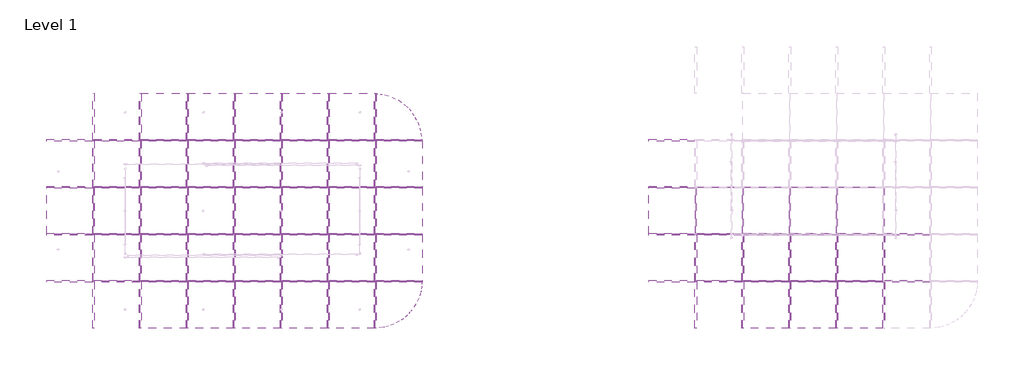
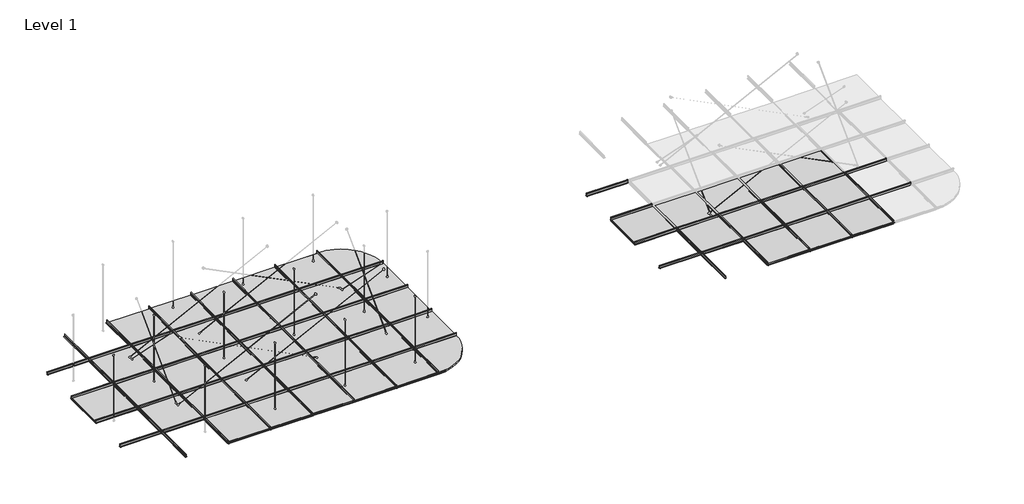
# One storey, part 1 of 3: 91 members, 46 plates.
"""IFC4 building model written with IfcOpenShell, lengths in millimetres."""

from ifc_helpers import new_model, si_unit, origin, place, context, project, spatial, transform, mapped, element, save
from components import circular_mullion_88ff0090, circular_mullion_f9b5ef4a, circular_mullion_51bf8350, circular_mullion_cross_tees_bf580255, plate_e06be09b, plate_2f8602be, plate_8db3f6ee

model = new_model("IFC4")

# Units and contexts
model_context = context("Model", 3, world=origin())
ifc_project = project(units=[si_unit("LENGTHUNIT", "METRE", prefix="MILLI")], contexts=[model_context])

# Site, building, storey
site = spatial("IfcSite", under=ifc_project)
building = spatial("IfcBuilding", under=site)
storey = spatial("IfcBuildingStorey", under=building, Name="Level 1", Elevation=0.0)

# Members
placement = place(None, origin())
circular_mullion_shape = circular_mullion_88ff0090(model_context)
element("IfcMember", 1, ObjectType="Circular Mullion : Main Runners", at=placement, inside=storey, context=model_context, shape_type="MappedRepresentation", body=[
    mapped(circular_mullion_shape, transform((-10207.3919311, 7076.1970288, 2001.0), x_axis=(0.0, 1.0, 0.0), y_axis=(0.0, 0.0, -1.0), z_axis=(-1.0, 0.0, 0.0))),
])
element("IfcMember", 2, ObjectType="Circular Mullion : Main Runners", at=placement, inside=storey, context=model_context, shape_type="MappedRepresentation", body=[
    mapped(circular_mullion_shape, transform((-9607.3919311, 7076.1970288, 2001.0), x_axis=(0.0, 1.0, 0.0), y_axis=(0.0, 0.0, -1.0), z_axis=(-1.0, 0.0, 0.0))),
])
element("IfcMember", 3, ObjectType="Circular Mullion : Main Runners", at=placement, inside=storey, context=model_context, shape_type="MappedRepresentation", body=[
    mapped(circular_mullion_shape, transform((-9007.3919311, 7076.1970288, 2001.0), x_axis=(0.0, 1.0, 0.0), y_axis=(0.0, 0.0, -1.0), z_axis=(-1.0, 0.0, 0.0))),
])
element("IfcMember", 4, ObjectType="Circular Mullion : Main Runners", at=placement, inside=storey, context=model_context, shape_type="MappedRepresentation", body=[
    mapped(circular_mullion_shape, transform((-8407.3919311, 7076.1970288, 2001.0), x_axis=(0.0, 1.0, 0.0), y_axis=(0.0, 0.0, -1.0), z_axis=(-1.0, 0.0, 0.0))),
])
element("IfcMember", 5, ObjectType="Circular Mullion : Main Runners", at=placement, inside=storey, context=model_context, shape_type="MappedRepresentation", body=[
    mapped(circular_mullion_shape, transform((-7807.3919311, 7076.1970288, 2001.0), x_axis=(0.0, 1.0, 0.0), y_axis=(0.0, 0.0, -1.0), z_axis=(-1.0, 0.0, 0.0))),
])
element("IfcMember", 6, ObjectType="Circular Mullion : Main Runners", at=placement, inside=storey, context=model_context, shape_type="MappedRepresentation", body=[
    mapped(circular_mullion_shape, transform((-7207.3919311, 7076.1970288, 2001.0), x_axis=(0.0, 1.0, 0.0), y_axis=(0.0, 0.0, -1.0), z_axis=(-1.0, 0.0, 0.0))),
])
element("IfcMember", 7, ObjectType="Circular Mullion : Main Runners", at=placement, inside=storey, context=model_context, shape_type="MappedRepresentation", body=[
    mapped(circular_mullion_shape, transform((-10207.3919311, 7676.1970288, 2001.0), x_axis=(0.0, 1.0, 0.0), y_axis=(0.0, 0.0, -1.0), z_axis=(-1.0, 0.0, 0.0))),
])
element("IfcMember", 8, ObjectType="Circular Mullion : Main Runners", at=placement, inside=storey, context=model_context, shape_type="MappedRepresentation", body=[
    mapped(circular_mullion_shape, transform((-9607.3919311, 7676.1970288, 2001.0), x_axis=(0.0, 1.0, 0.0), y_axis=(0.0, 0.0, -1.0), z_axis=(-1.0, 0.0, 0.0))),
])
element("IfcMember", 9, ObjectType="Circular Mullion : Main Runners", at=placement, inside=storey, context=model_context, shape_type="MappedRepresentation", body=[
    mapped(circular_mullion_shape, transform((-9007.3919311, 7676.1970288, 2001.0), x_axis=(0.0, 1.0, 0.0), y_axis=(0.0, 0.0, -1.0), z_axis=(-1.0, 0.0, 0.0))),
])
element("IfcMember", 10, ObjectType="Circular Mullion : Main Runners", at=placement, inside=storey, context=model_context, shape_type="MappedRepresentation", body=[
    mapped(circular_mullion_shape, transform((-8407.3919311, 7676.1970288, 2001.0), x_axis=(0.0, 1.0, 0.0), y_axis=(0.0, 0.0, -1.0), z_axis=(-1.0, 0.0, 0.0))),
])
element("IfcMember", 11, ObjectType="Circular Mullion : Main Runners", at=placement, inside=storey, context=model_context, shape_type="MappedRepresentation", body=[
    mapped(circular_mullion_shape, transform((-7807.3919311, 7676.1970288, 2001.0), x_axis=(0.0, 1.0, 0.0), y_axis=(0.0, 0.0, -1.0), z_axis=(-1.0, 0.0, 0.0))),
])
element("IfcMember", 12, ObjectType="Circular Mullion : Main Runners", at=placement, inside=storey, context=model_context, shape_type="MappedRepresentation", body=[
    mapped(circular_mullion_shape, transform((-7207.3919311, 7676.1970288, 2001.0), x_axis=(0.0, 1.0, 0.0), y_axis=(0.0, 0.0, -1.0), z_axis=(-1.0, 0.0, 0.0))),
])
element("IfcMember", 13, ObjectType="Circular Mullion : Main Runners", at=placement, inside=storey, context=model_context, shape_type="MappedRepresentation", body=[
    mapped(circular_mullion_shape, transform((-10207.3919311, 8276.1970288, 2001.0), x_axis=(0.0, 1.0, 0.0), y_axis=(0.0, 0.0, -1.0), z_axis=(-1.0, 0.0, 0.0))),
])
element("IfcMember", 14, ObjectType="Circular Mullion : Main Runners", at=placement, inside=storey, context=model_context, shape_type="MappedRepresentation", body=[
    mapped(circular_mullion_shape, transform((-9607.3919311, 8276.1970288, 2001.0), x_axis=(0.0, 1.0, 0.0), y_axis=(0.0, 0.0, -1.0), z_axis=(-1.0, 0.0, 0.0))),
])
element("IfcMember", 15, ObjectType="Circular Mullion : Main Runners", at=placement, inside=storey, context=model_context, shape_type="MappedRepresentation", body=[
    mapped(circular_mullion_shape, transform((-9007.3919311, 8276.1970288, 2001.0), x_axis=(0.0, 1.0, 0.0), y_axis=(0.0, 0.0, -1.0), z_axis=(-1.0, 0.0, 0.0))),
])
element("IfcMember", 16, ObjectType="Circular Mullion : Main Runners", at=placement, inside=storey, context=model_context, shape_type="MappedRepresentation", body=[
    mapped(circular_mullion_shape, transform((-8407.3919311, 8276.1970288, 2001.0), x_axis=(0.0, 1.0, 0.0), y_axis=(0.0, 0.0, -1.0), z_axis=(-1.0, 0.0, 0.0))),
])
element("IfcMember", 17, ObjectType="Circular Mullion : Main Runners", at=placement, inside=storey, context=model_context, shape_type="MappedRepresentation", body=[
    mapped(circular_mullion_shape, transform((-7807.3919311, 8276.1970288, 2001.0), x_axis=(0.0, 1.0, 0.0), y_axis=(0.0, 0.0, -1.0), z_axis=(-1.0, 0.0, 0.0))),
])
element("IfcMember", 18, ObjectType="Circular Mullion : Main Runners", at=placement, inside=storey, context=model_context, shape_type="MappedRepresentation", body=[
    mapped(circular_mullion_shape, transform((-7207.3919311, 8276.1970288, 2001.0), x_axis=(0.0, 1.0, 0.0), y_axis=(0.0, 0.0, -1.0), z_axis=(-1.0, 0.0, 0.0))),
])
element("IfcMember", 19, ObjectType="Circular Mullion : Main Runners", at=placement, inside=storey, context=model_context, shape_type="MappedRepresentation", body=[
    mapped(circular_mullion_shape, transform((-10207.3919311, 8876.1970288, 2001.0), x_axis=(0.0, 1.0, 0.0), y_axis=(0.0, 0.0, -1.0), z_axis=(-1.0, 0.0, 0.0))),
])
element("IfcMember", 20, ObjectType="Circular Mullion : Main Runners", at=placement, inside=storey, context=model_context, shape_type="MappedRepresentation", body=[
    mapped(circular_mullion_shape, transform((-9607.3919311, 8876.1970288, 2001.0), x_axis=(0.0, 1.0, 0.0), y_axis=(0.0, 0.0, -1.0), z_axis=(-1.0, 0.0, 0.0))),
])
element("IfcMember", 21, ObjectType="Circular Mullion : Main Runners", at=placement, inside=storey, context=model_context, shape_type="MappedRepresentation", body=[
    mapped(circular_mullion_shape, transform((-9007.3919311, 8876.1970288, 2001.0), x_axis=(0.0, 1.0, 0.0), y_axis=(0.0, 0.0, -1.0), z_axis=(-1.0, 0.0, 0.0))),
])
element("IfcMember", 22, ObjectType="Circular Mullion : Main Runners", at=placement, inside=storey, context=model_context, shape_type="MappedRepresentation", body=[
    mapped(circular_mullion_shape, transform((-8407.3919311, 8876.1970288, 2001.0), x_axis=(0.0, 1.0, 0.0), y_axis=(0.0, 0.0, -1.0), z_axis=(-1.0, 0.0, 0.0))),
])
element("IfcMember", 23, ObjectType="Circular Mullion : Main Runners", at=placement, inside=storey, context=model_context, shape_type="MappedRepresentation", body=[
    mapped(circular_mullion_shape, transform((-7807.3919311, 8876.1970288, 2001.0), x_axis=(0.0, 1.0, 0.0), y_axis=(0.0, 0.0, -1.0), z_axis=(-1.0, 0.0, 0.0))),
])
element("IfcMember", 24, ObjectType="Circular Mullion : Main Runners", at=placement, inside=storey, context=model_context, shape_type="MappedRepresentation", body=[
    mapped(circular_mullion_shape, transform((-7207.3919311, 8876.1970288, 2001.0), x_axis=(0.0, 1.0, 0.0), y_axis=(0.0, 0.0, -1.0), z_axis=(-1.0, 0.0, 0.0))),
])
element("IfcMember", 25, ObjectType="Circular Mullion : Main Runners", at=placement, inside=storey, context=model_context, shape_type="MappedRepresentation", body=[
    mapped(circular_mullion_shape, transform((-2507.3919311, 7076.1970288, 2001.0), x_axis=(0.0, 1.0, 0.0), y_axis=(0.0, 0.0, -1.0), z_axis=(-1.0, 0.0, 0.0))),
])
element("IfcMember", 26, ObjectType="Circular Mullion : Main Runners", at=placement, inside=storey, context=model_context, shape_type="MappedRepresentation", body=[
    mapped(circular_mullion_shape, transform((-1907.3919311, 7076.1970288, 2001.0), x_axis=(0.0, 1.0, 0.0), y_axis=(0.0, 0.0, -1.0), z_axis=(-1.0, 0.0, 0.0))),
])
element("IfcMember", 27, ObjectType="Circular Mullion : Main Runners", at=placement, inside=storey, context=model_context, shape_type="MappedRepresentation", body=[
    mapped(circular_mullion_shape, transform((-1307.3919311, 7076.1970288, 2001.0), x_axis=(0.0, 1.0, 0.0), y_axis=(0.0, 0.0, -1.0), z_axis=(-1.0, 0.0, 0.0))),
])
element("IfcMember", 28, ObjectType="Circular Mullion : Main Runners", at=placement, inside=storey, context=model_context, shape_type="MappedRepresentation", body=[
    mapped(circular_mullion_shape, transform((-707.3919311, 7076.1970288, 2001.0), x_axis=(0.0, 1.0, 0.0), y_axis=(0.0, 0.0, -1.0), z_axis=(-1.0, 0.0, 0.0))),
])
element("IfcMember", 29, ObjectType="Circular Mullion : Main Runners", at=placement, inside=storey, context=model_context, shape_type="MappedRepresentation", body=[
    mapped(circular_mullion_shape, transform((-107.3919311, 7076.1970288, 2001.0), x_axis=(0.0, 1.0, 0.0), y_axis=(0.0, 0.0, -1.0), z_axis=(-1.0, 0.0, 0.0))),
])
element("IfcMember", 30, ObjectType="Circular Mullion : Main Runners", at=placement, inside=storey, context=model_context, shape_type="MappedRepresentation", body=[
    mapped(circular_mullion_shape, transform((-2507.3919311, 7676.1970288, 2001.0), x_axis=(0.0, 1.0, 0.0), y_axis=(0.0, 0.0, -1.0), z_axis=(-1.0, 0.0, 0.0))),
])
element("IfcMember", 31, ObjectType="Circular Mullion : Main Runners", at=placement, inside=storey, context=model_context, shape_type="MappedRepresentation", body=[
    mapped(circular_mullion_shape, transform((-1907.3919311, 7676.1970288, 2001.0), x_axis=(0.0, 1.0, 0.0), y_axis=(0.0, 0.0, -1.0), z_axis=(-1.0, 0.0, 0.0))),
])
element("IfcMember", 32, ObjectType="Circular Mullion : Main Runners", at=placement, inside=storey, context=model_context, shape_type="MappedRepresentation", body=[
    mapped(circular_mullion_shape, transform((-1307.3919311, 7676.1970288, 2001.0), x_axis=(0.0, 1.0, 0.0), y_axis=(0.0, 0.0, -1.0), z_axis=(-1.0, 0.0, 0.0))),
])
element("IfcMember", 33, ObjectType="Circular Mullion : Main Runners", at=placement, inside=storey, context=model_context, shape_type="MappedRepresentation", body=[
    mapped(circular_mullion_shape, transform((-707.3919311, 7676.1970288, 2001.0), x_axis=(0.0, 1.0, 0.0), y_axis=(0.0, 0.0, -1.0), z_axis=(-1.0, 0.0, 0.0))),
])
element("IfcMember", 34, ObjectType="Circular Mullion : Main Runners", at=placement, inside=storey, context=model_context, shape_type="MappedRepresentation", body=[
    mapped(circular_mullion_shape, transform((-107.3919311, 7676.1970288, 2001.0), x_axis=(0.0, 1.0, 0.0), y_axis=(0.0, 0.0, -1.0), z_axis=(-1.0, 0.0, 0.0))),
])
circular_mullion_2_shape = circular_mullion_f9b5ef4a(model_context)
element("IfcMember", 35, ObjectType="Circular Mullion : Main Runners", at=placement, inside=storey, context=model_context, shape_type="MappedRepresentation", body=[
    mapped(circular_mullion_2_shape, transform((-10819.2981815, 7076.1970288, 2001.0), x_axis=(0.0, 1.0, 0.0), y_axis=(0.0, 0.0, -1.0), z_axis=(-1.0, 0.0, 0.0))),
])
element("IfcMember", 36, ObjectType="Circular Mullion : Main Runners", at=placement, inside=storey, context=model_context, shape_type="MappedRepresentation", body=[
    mapped(circular_mullion_2_shape, transform((-10819.2981815, 7676.1970288, 2001.0), x_axis=(0.0, 1.0, 0.0), y_axis=(0.0, 0.0, -1.0), z_axis=(-1.0, 0.0, 0.0))),
])
element("IfcMember", 37, ObjectType="Circular Mullion : Main Runners", at=placement, inside=storey, context=model_context, shape_type="MappedRepresentation", body=[
    mapped(circular_mullion_2_shape, transform((-10819.2981815, 8276.1970288, 2001.0), x_axis=(0.0, 1.0, 0.0), y_axis=(0.0, 0.0, -1.0), z_axis=(-1.0, 0.0, 0.0))),
])
element("IfcMember", 38, ObjectType="Circular Mullion : Main Runners", at=placement, inside=storey, context=model_context, shape_type="MappedRepresentation", body=[
    mapped(circular_mullion_2_shape, transform((-10819.2981815, 8876.1970288, 2001.0), x_axis=(0.0, 1.0, 0.0), y_axis=(0.0, 0.0, -1.0), z_axis=(-1.0, 0.0, 0.0))),
])
element("IfcMember", 39, ObjectType="Circular Mullion : Main Runners", at=placement, inside=storey, context=model_context, shape_type="MappedRepresentation", body=[
    mapped(circular_mullion_2_shape, transform((-3119.2981815, 7076.1970288, 2001.0), x_axis=(0.0, 1.0, 0.0), y_axis=(0.0, 0.0, -1.0), z_axis=(-1.0, 0.0, 0.0))),
])
element("IfcMember", 40, ObjectType="Circular Mullion : Main Runners", at=placement, inside=storey, context=model_context, shape_type="MappedRepresentation", body=[
    mapped(circular_mullion_2_shape, transform((-3119.2981815, 7676.1970288, 2001.0), x_axis=(0.0, 1.0, 0.0), y_axis=(0.0, 0.0, -1.0), z_axis=(-1.0, 0.0, 0.0))),
])
element("IfcMember", 41, ObjectType="Circular Mullion : Main Runners", at=placement, inside=storey, context=model_context, shape_type="MappedRepresentation", body=[
    mapped(circular_mullion_2_shape, transform((-3119.2981815, 8276.1970288, 2001.0), x_axis=(0.0, 1.0, 0.0), y_axis=(0.0, 0.0, -1.0), z_axis=(-1.0, 0.0, 0.0))),
])
element("IfcMember", 42, ObjectType="Circular Mullion : Main Runners", at=placement, inside=storey, context=model_context, shape_type="MappedRepresentation", body=[
    mapped(circular_mullion_2_shape, transform((-3119.2981815, 8876.1970288, 2001.0), x_axis=(0.0, 1.0, 0.0), y_axis=(0.0, 0.0, -1.0), z_axis=(-1.0, 0.0, 0.0))),
])
circular_mullion_3_shape = circular_mullion_51bf8350(model_context)
element("IfcMember", 43, ObjectType="Circular Mullion : Main Runners", at=placement, inside=storey, context=model_context, shape_type="MappedRepresentation", body=[
    mapped(circular_mullion_3_shape, transform((-6607.3919311, 7076.1970288, 2001.0), x_axis=(0.0, 1.0, 0.0), y_axis=(0.0, 0.0, -1.0), z_axis=(-1.0, 0.0, 0.0))),
])
element("IfcMember", 44, ObjectType="Circular Mullion : Main Runners", at=placement, inside=storey, context=model_context, shape_type="MappedRepresentation", body=[
    mapped(circular_mullion_3_shape, transform((-6607.3919311, 7676.1970288, 2001.0), x_axis=(0.0, 1.0, 0.0), y_axis=(0.0, 0.0, -1.0), z_axis=(-1.0, 0.0, 0.0))),
])
element("IfcMember", 45, ObjectType="Circular Mullion : Main Runners", at=placement, inside=storey, context=model_context, shape_type="MappedRepresentation", body=[
    mapped(circular_mullion_3_shape, transform((-6607.3919311, 8276.1970288, 2001.0), x_axis=(0.0, 1.0, 0.0), y_axis=(0.0, 0.0, -1.0), z_axis=(-1.0, 0.0, 0.0))),
])
element("IfcMember", 46, ObjectType="Circular Mullion : Main Runners", at=placement, inside=storey, context=model_context, shape_type="MappedRepresentation", body=[
    mapped(circular_mullion_3_shape, transform((-6607.3919311, 8876.1970288, 2001.0), x_axis=(0.0, 1.0, 0.0), y_axis=(0.0, 0.0, -1.0), z_axis=(-1.0, 0.0, 0.0))),
])
circular_mullion_cross_tees_shape = circular_mullion_cross_tees_bf580255(model_context)
element("IfcMember", 47, ObjectType="Circular Mullion : Cross Tees", at=placement, inside=storey, context=model_context, shape_type="MappedRepresentation", body=[
    mapped(circular_mullion_cross_tees_shape, transform((-10219.2981811, 7676.1970288, 2001.0), x_axis=(1.0, 0.0, 0.0), y_axis=(0.0, 0.0, -1.0), z_axis=(0.0, 1.0, 0.0))),
])
element("IfcMember", 48, ObjectType="Circular Mullion : Cross Tees", at=placement, inside=storey, context=model_context, shape_type="MappedRepresentation", body=[
    mapped(circular_mullion_cross_tees_shape, transform((-9619.2981811, 7676.1970288, 2001.0), x_axis=(1.0, 0.0, 0.0), y_axis=(0.0, 0.0, -1.0), z_axis=(0.0, 1.0, 0.0))),
])
element("IfcMember", 49, ObjectType="Circular Mullion : Cross Tees", at=placement, inside=storey, context=model_context, shape_type="MappedRepresentation", body=[
    mapped(circular_mullion_cross_tees_shape, transform((-9019.2981811, 7676.1970288, 2001.0), x_axis=(1.0, 0.0, 0.0), y_axis=(0.0, 0.0, -1.0), z_axis=(0.0, 1.0, 0.0))),
])
element("IfcMember", 50, ObjectType="Circular Mullion : Cross Tees", at=placement, inside=storey, context=model_context, shape_type="MappedRepresentation", body=[
    mapped(circular_mullion_cross_tees_shape, transform((-8419.2981811, 7676.1970288, 2001.0), x_axis=(1.0, 0.0, 0.0), y_axis=(0.0, 0.0, -1.0), z_axis=(0.0, 1.0, 0.0))),
])
element("IfcMember", 51, ObjectType="Circular Mullion : Cross Tees", at=placement, inside=storey, context=model_context, shape_type="MappedRepresentation", body=[
    mapped(circular_mullion_cross_tees_shape, transform((-7819.2981811, 7676.1970288, 2001.0), x_axis=(1.0, 0.0, 0.0), y_axis=(0.0, 0.0, -1.0), z_axis=(0.0, 1.0, 0.0))),
])
element("IfcMember", 52, ObjectType="Circular Mullion : Cross Tees", at=placement, inside=storey, context=model_context, shape_type="MappedRepresentation", body=[
    mapped(circular_mullion_cross_tees_shape, transform((-7219.2981811, 7676.1970288, 2001.0), x_axis=(1.0, 0.0, 0.0), y_axis=(0.0, 0.0, -1.0), z_axis=(0.0, 1.0, 0.0))),
])
element("IfcMember", 53, ObjectType="Circular Mullion : Cross Tees", at=placement, inside=storey, context=model_context, shape_type="MappedRepresentation", body=[
    mapped(circular_mullion_cross_tees_shape, transform((-6619.2981811, 7676.1970288, 2001.0), x_axis=(1.0, 0.0, 0.0), y_axis=(0.0, 0.0, -1.0), z_axis=(0.0, 1.0, 0.0))),
])
element("IfcMember", 54, ObjectType="Circular Mullion : Cross Tees", at=placement, inside=storey, context=model_context, shape_type="MappedRepresentation", body=[
    mapped(circular_mullion_cross_tees_shape, transform((-10219.2981811, 8276.1970288, 2001.0), x_axis=(1.0, 0.0, 0.0), y_axis=(0.0, 0.0, -1.0), z_axis=(0.0, 1.0, 0.0))),
])
element("IfcMember", 55, ObjectType="Circular Mullion : Cross Tees", at=placement, inside=storey, context=model_context, shape_type="MappedRepresentation", body=[
    mapped(circular_mullion_cross_tees_shape, transform((-9619.2981811, 8276.1970288, 2001.0), x_axis=(1.0, 0.0, 0.0), y_axis=(0.0, 0.0, -1.0), z_axis=(0.0, 1.0, 0.0))),
])
element("IfcMember", 56, ObjectType="Circular Mullion : Cross Tees", at=placement, inside=storey, context=model_context, shape_type="MappedRepresentation", body=[
    mapped(circular_mullion_cross_tees_shape, transform((-9019.2981811, 8276.1970288, 2001.0), x_axis=(1.0, 0.0, 0.0), y_axis=(0.0, 0.0, -1.0), z_axis=(0.0, 1.0, 0.0))),
])
element("IfcMember", 57, ObjectType="Circular Mullion : Cross Tees", at=placement, inside=storey, context=model_context, shape_type="MappedRepresentation", body=[
    mapped(circular_mullion_cross_tees_shape, transform((-8419.2981811, 8276.1970288, 2001.0), x_axis=(1.0, 0.0, 0.0), y_axis=(0.0, 0.0, -1.0), z_axis=(0.0, 1.0, 0.0))),
])
element("IfcMember", 58, ObjectType="Circular Mullion : Cross Tees", at=placement, inside=storey, context=model_context, shape_type="MappedRepresentation", body=[
    mapped(circular_mullion_cross_tees_shape, transform((-7819.2981811, 8276.1970288, 2001.0), x_axis=(1.0, 0.0, 0.0), y_axis=(0.0, 0.0, -1.0), z_axis=(0.0, 1.0, 0.0))),
])
element("IfcMember", 59, ObjectType="Circular Mullion : Cross Tees", at=placement, inside=storey, context=model_context, shape_type="MappedRepresentation", body=[
    mapped(circular_mullion_cross_tees_shape, transform((-7219.2981811, 8276.1970288, 2001.0), x_axis=(1.0, 0.0, 0.0), y_axis=(0.0, 0.0, -1.0), z_axis=(0.0, 1.0, 0.0))),
])
element("IfcMember", 60, ObjectType="Circular Mullion : Cross Tees", at=placement, inside=storey, context=model_context, shape_type="MappedRepresentation", body=[
    mapped(circular_mullion_cross_tees_shape, transform((-6619.2981811, 8276.1970288, 2001.0), x_axis=(1.0, 0.0, 0.0), y_axis=(0.0, 0.0, -1.0), z_axis=(0.0, 1.0, 0.0))),
])
element("IfcMember", 61, ObjectType="Circular Mullion : Cross Tees", at=placement, inside=storey, context=model_context, shape_type="MappedRepresentation", body=[
    mapped(circular_mullion_cross_tees_shape, transform((-10219.2981811, 8876.1970288, 2001.0), x_axis=(1.0, 0.0, 0.0), y_axis=(0.0, 0.0, -1.0), z_axis=(0.0, 1.0, 0.0))),
])
element("IfcMember", 62, ObjectType="Circular Mullion : Cross Tees", at=placement, inside=storey, context=model_context, shape_type="MappedRepresentation", body=[
    mapped(circular_mullion_cross_tees_shape, transform((-9619.2981811, 8876.1970288, 2001.0), x_axis=(1.0, 0.0, 0.0), y_axis=(0.0, 0.0, -1.0), z_axis=(0.0, 1.0, 0.0))),
])
element("IfcMember", 63, ObjectType="Circular Mullion : Cross Tees", at=placement, inside=storey, context=model_context, shape_type="MappedRepresentation", body=[
    mapped(circular_mullion_cross_tees_shape, transform((-9019.2981811, 8876.1970288, 2001.0), x_axis=(1.0, 0.0, 0.0), y_axis=(0.0, 0.0, -1.0), z_axis=(0.0, 1.0, 0.0))),
])
element("IfcMember", 64, ObjectType="Circular Mullion : Cross Tees", at=placement, inside=storey, context=model_context, shape_type="MappedRepresentation", body=[
    mapped(circular_mullion_cross_tees_shape, transform((-8419.2981811, 8876.1970288, 2001.0), x_axis=(1.0, 0.0, 0.0), y_axis=(0.0, 0.0, -1.0), z_axis=(0.0, 1.0, 0.0))),
])
element("IfcMember", 65, ObjectType="Circular Mullion : Cross Tees", at=placement, inside=storey, context=model_context, shape_type="MappedRepresentation", body=[
    mapped(circular_mullion_cross_tees_shape, transform((-7819.2981811, 8876.1970288, 2001.0), x_axis=(1.0, 0.0, 0.0), y_axis=(0.0, 0.0, -1.0), z_axis=(0.0, 1.0, 0.0))),
])
element("IfcMember", 66, ObjectType="Circular Mullion : Cross Tees", at=placement, inside=storey, context=model_context, shape_type="MappedRepresentation", body=[
    mapped(circular_mullion_cross_tees_shape, transform((-7219.2981811, 8876.1970288, 2001.0), x_axis=(1.0, 0.0, 0.0), y_axis=(0.0, 0.0, -1.0), z_axis=(0.0, 1.0, 0.0))),
])
element("IfcMember", 67, ObjectType="Circular Mullion : Cross Tees", at=placement, inside=storey, context=model_context, shape_type="MappedRepresentation", body=[
    mapped(circular_mullion_cross_tees_shape, transform((-6619.2981811, 8876.1970288, 2001.0), x_axis=(1.0, 0.0, 0.0), y_axis=(0.0, 0.0, -1.0), z_axis=(0.0, 1.0, 0.0))),
])
element("IfcMember", 68, ObjectType="Circular Mullion : Cross Tees", at=placement, inside=storey, context=model_context, shape_type="MappedRepresentation", body=[
    mapped(circular_mullion_cross_tees_shape, transform((-2519.2981811, 7676.1970288, 2001.0), x_axis=(1.0, 0.0, 0.0), y_axis=(0.0, 0.0, -1.0), z_axis=(0.0, 1.0, 0.0))),
])
element("IfcMember", 69, ObjectType="Circular Mullion : Cross Tees", at=placement, inside=storey, context=model_context, shape_type="MappedRepresentation", body=[
    mapped(circular_mullion_cross_tees_shape, transform((-1919.2981811, 7676.1970288, 2001.0), x_axis=(1.0, 0.0, 0.0), y_axis=(0.0, 0.0, -1.0), z_axis=(0.0, 1.0, 0.0))),
])
element("IfcMember", 70, ObjectType="Circular Mullion : Cross Tees", at=placement, inside=storey, context=model_context, shape_type="MappedRepresentation", body=[
    mapped(circular_mullion_cross_tees_shape, transform((-1319.2981811, 7676.1970288, 2001.0), x_axis=(1.0, 0.0, 0.0), y_axis=(0.0, 0.0, -1.0), z_axis=(0.0, 1.0, 0.0))),
])
element("IfcMember", 71, ObjectType="Circular Mullion : Cross Tees", at=placement, inside=storey, context=model_context, shape_type="MappedRepresentation", body=[
    mapped(circular_mullion_cross_tees_shape, transform((-719.2981811, 7676.1970288, 2001.0), x_axis=(1.0, 0.0, 0.0), y_axis=(0.0, 0.0, -1.0), z_axis=(0.0, 1.0, 0.0))),
])
element("IfcMember", 72, ObjectType="Circular Mullion : Cross Tees", at=placement, inside=storey, context=model_context, shape_type="MappedRepresentation", body=[
    mapped(circular_mullion_cross_tees_shape, transform((-119.2981811, 7676.1970288, 2001.0), x_axis=(1.0, 0.0, 0.0), y_axis=(0.0, 0.0, -1.0), z_axis=(0.0, 1.0, 0.0))),
])
element("IfcMember", 73, ObjectType="Circular Mullion : Cross Tees", at=placement, inside=storey, context=model_context, shape_type="MappedRepresentation", body=[
    mapped(circular_mullion_cross_tees_shape, transform((-10219.2981811, 7076.1970288, 2001.0), x_axis=(1.0, 0.0, 0.0), y_axis=(0.0, 0.0, -1.0), z_axis=(0.0, 1.0, 0.0))),
])
element("IfcMember", 74, ObjectType="Circular Mullion : Cross Tees", at=placement, inside=storey, context=model_context, shape_type="MappedRepresentation", body=[
    mapped(circular_mullion_cross_tees_shape, transform((-9619.2981811, 7076.1970288, 2001.0), x_axis=(1.0, 0.0, 0.0), y_axis=(0.0, 0.0, -1.0), z_axis=(0.0, 1.0, 0.0))),
])
element("IfcMember", 75, ObjectType="Circular Mullion : Cross Tees", at=placement, inside=storey, context=model_context, shape_type="MappedRepresentation", body=[
    mapped(circular_mullion_cross_tees_shape, transform((-9019.2981811, 7076.1970288, 2001.0), x_axis=(1.0, 0.0, 0.0), y_axis=(0.0, 0.0, -1.0), z_axis=(0.0, 1.0, 0.0))),
])
element("IfcMember", 76, ObjectType="Circular Mullion : Cross Tees", at=placement, inside=storey, context=model_context, shape_type="MappedRepresentation", body=[
    mapped(circular_mullion_cross_tees_shape, transform((-8419.2981811, 7076.1970288, 2001.0), x_axis=(1.0, 0.0, 0.0), y_axis=(0.0, 0.0, -1.0), z_axis=(0.0, 1.0, 0.0))),
])
element("IfcMember", 77, ObjectType="Circular Mullion : Cross Tees", at=placement, inside=storey, context=model_context, shape_type="MappedRepresentation", body=[
    mapped(circular_mullion_cross_tees_shape, transform((-7819.2981811, 7076.1970288, 2001.0), x_axis=(1.0, 0.0, 0.0), y_axis=(0.0, 0.0, -1.0), z_axis=(0.0, 1.0, 0.0))),
])
element("IfcMember", 78, ObjectType="Circular Mullion : Cross Tees", at=placement, inside=storey, context=model_context, shape_type="MappedRepresentation", body=[
    mapped(circular_mullion_cross_tees_shape, transform((-7219.2981811, 7076.1970288, 2001.0), x_axis=(1.0, 0.0, 0.0), y_axis=(0.0, 0.0, -1.0), z_axis=(0.0, 1.0, 0.0))),
])
element("IfcMember", 79, ObjectType="Circular Mullion : Cross Tees", at=placement, inside=storey, context=model_context, shape_type="MappedRepresentation", body=[
    mapped(circular_mullion_cross_tees_shape, transform((-6619.2981811, 7076.1970288, 2001.0), x_axis=(1.0, 0.0, 0.0), y_axis=(0.0, 0.0, -1.0), z_axis=(0.0, 1.0, 0.0))),
])
element("IfcMember", 80, ObjectType="Circular Mullion : Cross Tees", at=placement, inside=storey, context=model_context, shape_type="MappedRepresentation", body=[
    mapped(circular_mullion_cross_tees_shape, transform((-2519.2981811, 7076.1970288, 2001.0), x_axis=(1.0, 0.0, 0.0), y_axis=(0.0, 0.0, -1.0), z_axis=(0.0, 1.0, 0.0))),
])
element("IfcMember", 81, ObjectType="Circular Mullion : Cross Tees", at=placement, inside=storey, context=model_context, shape_type="MappedRepresentation", body=[
    mapped(circular_mullion_cross_tees_shape, transform((-1919.2981811, 7076.1970288, 2001.0), x_axis=(1.0, 0.0, 0.0), y_axis=(0.0, 0.0, -1.0), z_axis=(0.0, 1.0, 0.0))),
])
element("IfcMember", 82, ObjectType="Circular Mullion : Cross Tees", at=placement, inside=storey, context=model_context, shape_type="MappedRepresentation", body=[
    mapped(circular_mullion_cross_tees_shape, transform((-1319.2981811, 7076.1970288, 2001.0), x_axis=(1.0, 0.0, 0.0), y_axis=(0.0, 0.0, -1.0), z_axis=(0.0, 1.0, 0.0))),
])
element("IfcMember", 83, ObjectType="Circular Mullion : Cross Tees", at=placement, inside=storey, context=model_context, shape_type="MappedRepresentation", body=[
    mapped(circular_mullion_cross_tees_shape, transform((-719.2981811, 7076.1970288, 2001.0), x_axis=(1.0, 0.0, 0.0), y_axis=(0.0, 0.0, -1.0), z_axis=(0.0, 1.0, 0.0))),
])
element("IfcMember", 84, ObjectType="Circular Mullion : Cross Tees", at=placement, inside=storey, context=model_context, shape_type="MappedRepresentation", body=[
    mapped(circular_mullion_cross_tees_shape, transform((-119.2981811, 7076.1970288, 2001.0), x_axis=(1.0, 0.0, 0.0), y_axis=(0.0, 0.0, -1.0), z_axis=(0.0, 1.0, 0.0))),
])
element("IfcMember", 85, ObjectType="Circular Mullion : Cross Tees", at=placement, inside=storey, context=model_context, shape_type="MappedRepresentation", body=[
    mapped(circular_mullion_cross_tees_shape, transform((-10219.2981811, 9476.1970288, 2001.0), x_axis=(1.0, 0.0, 0.0), y_axis=(0.0, 0.0, -1.0), z_axis=(0.0, 1.0, 0.0))),
])
element("IfcMember", 86, ObjectType="Circular Mullion : Cross Tees", at=placement, inside=storey, context=model_context, shape_type="MappedRepresentation", body=[
    mapped(circular_mullion_cross_tees_shape, transform((-9619.2981811, 9476.1970288, 2001.0), x_axis=(1.0, 0.0, 0.0), y_axis=(0.0, 0.0, -1.0), z_axis=(0.0, 1.0, 0.0))),
])
element("IfcMember", 87, ObjectType="Circular Mullion : Cross Tees", at=placement, inside=storey, context=model_context, shape_type="MappedRepresentation", body=[
    mapped(circular_mullion_cross_tees_shape, transform((-9019.2981811, 9476.1970288, 2001.0), x_axis=(1.0, 0.0, 0.0), y_axis=(0.0, 0.0, -1.0), z_axis=(0.0, 1.0, 0.0))),
])
element("IfcMember", 88, ObjectType="Circular Mullion : Cross Tees", at=placement, inside=storey, context=model_context, shape_type="MappedRepresentation", body=[
    mapped(circular_mullion_cross_tees_shape, transform((-8419.2981811, 9476.1970288, 2001.0), x_axis=(1.0, 0.0, 0.0), y_axis=(0.0, 0.0, -1.0), z_axis=(0.0, 1.0, 0.0))),
])
element("IfcMember", 89, ObjectType="Circular Mullion : Cross Tees", at=placement, inside=storey, context=model_context, shape_type="MappedRepresentation", body=[
    mapped(circular_mullion_cross_tees_shape, transform((-7819.2981811, 9476.1970288, 2001.0), x_axis=(1.0, 0.0, 0.0), y_axis=(0.0, 0.0, -1.0), z_axis=(0.0, 1.0, 0.0))),
])
element("IfcMember", 90, ObjectType="Circular Mullion : Cross Tees", at=placement, inside=storey, context=model_context, shape_type="MappedRepresentation", body=[
    mapped(circular_mullion_cross_tees_shape, transform((-7219.2981811, 9476.1970288, 2001.0), x_axis=(1.0, 0.0, 0.0), y_axis=(0.0, 0.0, -1.0), z_axis=(0.0, 1.0, 0.0))),
])
element("IfcMember", 91, ObjectType="Circular Mullion : Cross Tees", at=placement, inside=storey, context=model_context, shape_type="MappedRepresentation", body=[
    mapped(circular_mullion_cross_tees_shape, transform((-6619.2981811, 9476.1970288, 2001.0), x_axis=(1.0, 0.0, 0.0), y_axis=(0.0, 0.0, -1.0), z_axis=(0.0, 1.0, 0.0))),
])

# Plates
plate_shape = plate_e06be09b(model_context)
element("IfcPlate", 92, ObjectType="Rockfon X CORNER 3 : Rockfon Blanka X", at=placement, inside=storey, context=model_context, shape_type="MappedRepresentation", body=[
    mapped(plate_shape, transform((-6319.2981813, 6476.1970288, 2001.0), x_axis=(1.0, 0.0, 0.0), y_axis=(0.0, 0.0, -1.0), z_axis=(0.0, 1.0, 0.0))),
])
plate_2_shape = plate_2f8602be(model_context)
element("IfcPlate", 93, ObjectType="Rockfon X CORNER 4 : Rockfon Blanka X", at=placement, inside=storey, context=model_context, shape_type="MappedRepresentation", body=[
    mapped(plate_2_shape, transform((-6319.2981813, 8876.1970288, 2001.0), x_axis=(1.0, 0.0, 0.0), y_axis=(0.0, 0.0, -1.0), z_axis=(0.0, 1.0, 0.0))),
])
plate_3_shape = plate_8db3f6ee(model_context)
element("IfcPlate", 94, ObjectType="Rockfon Blanka X : Rockfon Blanka X", at=placement, inside=storey, context=model_context, shape_type="MappedRepresentation", body=[
    mapped(plate_3_shape, transform((-9319.2981811, 6476.1970288, 2001.0), x_axis=(1.0, 0.0, 0.0), y_axis=(0.0, 0.0, -1.0), z_axis=(0.0, 1.0, 0.0))),
])
element("IfcPlate", 95, ObjectType="Rockfon Blanka X : Rockfon Blanka X", at=placement, inside=storey, context=model_context, shape_type="MappedRepresentation", body=[
    mapped(plate_3_shape, transform((-8719.2981811, 6476.1970288, 2001.0), x_axis=(1.0, 0.0, 0.0), y_axis=(0.0, 0.0, -1.0), z_axis=(0.0, 1.0, 0.0))),
])
element("IfcPlate", 96, ObjectType="Rockfon Blanka X : Rockfon Blanka X", at=placement, inside=storey, context=model_context, shape_type="MappedRepresentation", body=[
    mapped(plate_3_shape, transform((-8119.2981811, 6476.1970288, 2001.0), x_axis=(1.0, 0.0, 0.0), y_axis=(0.0, 0.0, -1.0), z_axis=(0.0, 1.0, 0.0))),
])
element("IfcPlate", 97, ObjectType="Rockfon Blanka X : Rockfon Blanka X", at=placement, inside=storey, context=model_context, shape_type="MappedRepresentation", body=[
    mapped(plate_3_shape, transform((-7519.2981811, 6476.1970288, 2001.0), x_axis=(1.0, 0.0, 0.0), y_axis=(0.0, 0.0, -1.0), z_axis=(0.0, 1.0, 0.0))),
])
element("IfcPlate", 98, ObjectType="Rockfon Blanka X : Rockfon Blanka X", at=placement, inside=storey, context=model_context, shape_type="MappedRepresentation", body=[
    mapped(plate_3_shape, transform((-6919.2981811, 6476.1970288, 2001.0), x_axis=(1.0, 0.0, 0.0), y_axis=(0.0, 0.0, -1.0), z_axis=(0.0, 1.0, 0.0))),
])
element("IfcPlate", 99, ObjectType="Rockfon Blanka X : Rockfon Blanka X", at=placement, inside=storey, context=model_context, shape_type="MappedRepresentation", body=[
    mapped(plate_3_shape, transform((-9919.2981811, 7076.1970288, 2001.0), x_axis=(1.0, 0.0, 0.0), y_axis=(0.0, 0.0, -1.0), z_axis=(0.0, 1.0, 0.0))),
])
element("IfcPlate", 100, ObjectType="Rockfon Blanka X : Rockfon Blanka X", at=placement, inside=storey, context=model_context, shape_type="MappedRepresentation", body=[
    mapped(plate_3_shape, transform((-9319.2981811, 7076.1970288, 2001.0), x_axis=(1.0, 0.0, 0.0), y_axis=(0.0, 0.0, -1.0), z_axis=(0.0, 1.0, 0.0))),
])
element("IfcPlate", 101, ObjectType="Rockfon Blanka X : Rockfon Blanka X", at=placement, inside=storey, context=model_context, shape_type="MappedRepresentation", body=[
    mapped(plate_3_shape, transform((-8719.2981811, 7076.1970288, 2001.0), x_axis=(1.0, 0.0, 0.0), y_axis=(0.0, 0.0, -1.0), z_axis=(0.0, 1.0, 0.0))),
])
element("IfcPlate", 102, ObjectType="Rockfon Blanka X : Rockfon Blanka X", at=placement, inside=storey, context=model_context, shape_type="MappedRepresentation", body=[
    mapped(plate_3_shape, transform((-8119.2981811, 7076.1970288, 2001.0), x_axis=(1.0, 0.0, 0.0), y_axis=(0.0, 0.0, -1.0), z_axis=(0.0, 1.0, 0.0))),
])
element("IfcPlate", 103, ObjectType="Rockfon Blanka X : Rockfon Blanka X", at=placement, inside=storey, context=model_context, shape_type="MappedRepresentation", body=[
    mapped(plate_3_shape, transform((-7519.2981811, 7076.1970288, 2001.0), x_axis=(1.0, 0.0, 0.0), y_axis=(0.0, 0.0, -1.0), z_axis=(0.0, 1.0, 0.0))),
])
element("IfcPlate", 104, ObjectType="Rockfon Blanka X : Rockfon Blanka X", at=placement, inside=storey, context=model_context, shape_type="MappedRepresentation", body=[
    mapped(plate_3_shape, transform((-6919.2981811, 7076.1970288, 2001.0), x_axis=(1.0, 0.0, 0.0), y_axis=(0.0, 0.0, -1.0), z_axis=(0.0, 1.0, 0.0))),
])
element("IfcPlate", 105, ObjectType="Rockfon Blanka X : Rockfon Blanka X", at=placement, inside=storey, context=model_context, shape_type="MappedRepresentation", body=[
    mapped(plate_3_shape, transform((-6319.2981813, 7076.1970288, 2001.0), x_axis=(1.0, 0.0, 0.0), y_axis=(0.0, 0.0, -1.0), z_axis=(0.0, 1.0, 0.0))),
])
element("IfcPlate", 106, ObjectType="Rockfon Blanka X : Rockfon Blanka X", at=placement, inside=storey, context=model_context, shape_type="MappedRepresentation", body=[
    mapped(plate_3_shape, transform((-10519.2981813, 7676.1970288, 2001.0), x_axis=(1.0, 0.0, 0.0), y_axis=(0.0, 0.0, -1.0), z_axis=(0.0, 1.0, 0.0))),
])
element("IfcPlate", 107, ObjectType="Rockfon Blanka X : Rockfon Blanka X", at=placement, inside=storey, context=model_context, shape_type="MappedRepresentation", body=[
    mapped(plate_3_shape, transform((-9919.2981811, 7676.1970288, 2001.0), x_axis=(1.0, 0.0, 0.0), y_axis=(0.0, 0.0, -1.0), z_axis=(0.0, 1.0, 0.0))),
])
element("IfcPlate", 108, ObjectType="Rockfon Blanka X : Rockfon Blanka X", at=placement, inside=storey, context=model_context, shape_type="MappedRepresentation", body=[
    mapped(plate_3_shape, transform((-9319.2981811, 7676.1970288, 2001.0), x_axis=(1.0, 0.0, 0.0), y_axis=(0.0, 0.0, -1.0), z_axis=(0.0, 1.0, 0.0))),
])
element("IfcPlate", 109, ObjectType="Rockfon Blanka X : Rockfon Blanka X", at=placement, inside=storey, context=model_context, shape_type="MappedRepresentation", body=[
    mapped(plate_3_shape, transform((-8719.2981811, 7676.1970288, 2001.0), x_axis=(1.0, 0.0, 0.0), y_axis=(0.0, 0.0, -1.0), z_axis=(0.0, 1.0, 0.0))),
])
element("IfcPlate", 110, ObjectType="Rockfon Blanka X : Rockfon Blanka X", at=placement, inside=storey, context=model_context, shape_type="MappedRepresentation", body=[
    mapped(plate_3_shape, transform((-8119.2981811, 7676.1970288, 2001.0), x_axis=(1.0, 0.0, 0.0), y_axis=(0.0, 0.0, -1.0), z_axis=(0.0, 1.0, 0.0))),
])
element("IfcPlate", 111, ObjectType="Rockfon Blanka X : Rockfon Blanka X", at=placement, inside=storey, context=model_context, shape_type="MappedRepresentation", body=[
    mapped(plate_3_shape, transform((-7519.2981811, 7676.1970288, 2001.0), x_axis=(1.0, 0.0, 0.0), y_axis=(0.0, 0.0, -1.0), z_axis=(0.0, 1.0, 0.0))),
])
element("IfcPlate", 112, ObjectType="Rockfon Blanka X : Rockfon Blanka X", at=placement, inside=storey, context=model_context, shape_type="MappedRepresentation", body=[
    mapped(plate_3_shape, transform((-6919.2981811, 7676.1970288, 2001.0), x_axis=(1.0, 0.0, 0.0), y_axis=(0.0, 0.0, -1.0), z_axis=(0.0, 1.0, 0.0))),
])
element("IfcPlate", 113, ObjectType="Rockfon Blanka X : Rockfon Blanka X", at=placement, inside=storey, context=model_context, shape_type="MappedRepresentation", body=[
    mapped(plate_3_shape, transform((-6319.2981813, 7676.1970288, 2001.0), x_axis=(1.0, 0.0, 0.0), y_axis=(0.0, 0.0, -1.0), z_axis=(0.0, 1.0, 0.0))),
])
element("IfcPlate", 114, ObjectType="Rockfon Blanka X : Rockfon Blanka X", at=placement, inside=storey, context=model_context, shape_type="MappedRepresentation", body=[
    mapped(plate_3_shape, transform((-9919.2981811, 8276.1970288, 2001.0), x_axis=(1.0, 0.0, 0.0), y_axis=(0.0, 0.0, -1.0), z_axis=(0.0, 1.0, 0.0))),
])
element("IfcPlate", 115, ObjectType="Rockfon Blanka X : Rockfon Blanka X", at=placement, inside=storey, context=model_context, shape_type="MappedRepresentation", body=[
    mapped(plate_3_shape, transform((-9319.2981811, 8276.1970288, 2001.0), x_axis=(1.0, 0.0, 0.0), y_axis=(0.0, 0.0, -1.0), z_axis=(0.0, 1.0, 0.0))),
])
element("IfcPlate", 116, ObjectType="Rockfon Blanka X : Rockfon Blanka X", at=placement, inside=storey, context=model_context, shape_type="MappedRepresentation", body=[
    mapped(plate_3_shape, transform((-8719.2981811, 8276.1970288, 2001.0), x_axis=(1.0, 0.0, 0.0), y_axis=(0.0, 0.0, -1.0), z_axis=(0.0, 1.0, 0.0))),
])
element("IfcPlate", 117, ObjectType="Rockfon Blanka X : Rockfon Blanka X", at=placement, inside=storey, context=model_context, shape_type="MappedRepresentation", body=[
    mapped(plate_3_shape, transform((-8119.2981811, 8276.1970288, 2001.0), x_axis=(1.0, 0.0, 0.0), y_axis=(0.0, 0.0, -1.0), z_axis=(0.0, 1.0, 0.0))),
])
element("IfcPlate", 118, ObjectType="Rockfon Blanka X : Rockfon Blanka X", at=placement, inside=storey, context=model_context, shape_type="MappedRepresentation", body=[
    mapped(plate_3_shape, transform((-7519.2981811, 8276.1970288, 2001.0), x_axis=(1.0, 0.0, 0.0), y_axis=(0.0, 0.0, -1.0), z_axis=(0.0, 1.0, 0.0))),
])
element("IfcPlate", 119, ObjectType="Rockfon Blanka X : Rockfon Blanka X", at=placement, inside=storey, context=model_context, shape_type="MappedRepresentation", body=[
    mapped(plate_3_shape, transform((-6919.2981811, 8276.1970288, 2001.0), x_axis=(1.0, 0.0, 0.0), y_axis=(0.0, 0.0, -1.0), z_axis=(0.0, 1.0, 0.0))),
])
element("IfcPlate", 120, ObjectType="Rockfon Blanka X : Rockfon Blanka X", at=placement, inside=storey, context=model_context, shape_type="MappedRepresentation", body=[
    mapped(plate_3_shape, transform((-6319.2981813, 8276.1970288, 2001.0), x_axis=(1.0, 0.0, 0.0), y_axis=(0.0, 0.0, -1.0), z_axis=(0.0, 1.0, 0.0))),
])
element("IfcPlate", 121, ObjectType="Rockfon Blanka X : Rockfon Blanka X", at=placement, inside=storey, context=model_context, shape_type="MappedRepresentation", body=[
    mapped(plate_3_shape, transform((-9319.2981811, 8876.1970288, 2001.0), x_axis=(1.0, 0.0, 0.0), y_axis=(0.0, 0.0, -1.0), z_axis=(0.0, 1.0, 0.0))),
])
element("IfcPlate", 122, ObjectType="Rockfon Blanka X : Rockfon Blanka X", at=placement, inside=storey, context=model_context, shape_type="MappedRepresentation", body=[
    mapped(plate_3_shape, transform((-8719.2981811, 8876.1970288, 2001.0), x_axis=(1.0, 0.0, 0.0), y_axis=(0.0, 0.0, -1.0), z_axis=(0.0, 1.0, 0.0))),
])
element("IfcPlate", 123, ObjectType="Rockfon Blanka X : Rockfon Blanka X", at=placement, inside=storey, context=model_context, shape_type="MappedRepresentation", body=[
    mapped(plate_3_shape, transform((-8119.2981811, 8876.1970288, 2001.0), x_axis=(1.0, 0.0, 0.0), y_axis=(0.0, 0.0, -1.0), z_axis=(0.0, 1.0, 0.0))),
])
element("IfcPlate", 124, ObjectType="Rockfon Blanka X : Rockfon Blanka X", at=placement, inside=storey, context=model_context, shape_type="MappedRepresentation", body=[
    mapped(plate_3_shape, transform((-7519.2981811, 8876.1970288, 2001.0), x_axis=(1.0, 0.0, 0.0), y_axis=(0.0, 0.0, -1.0), z_axis=(0.0, 1.0, 0.0))),
])
element("IfcPlate", 125, ObjectType="Rockfon Blanka X : Rockfon Blanka X", at=placement, inside=storey, context=model_context, shape_type="MappedRepresentation", body=[
    mapped(plate_3_shape, transform((-6919.2981811, 8876.1970288, 2001.0), x_axis=(1.0, 0.0, 0.0), y_axis=(0.0, 0.0, -1.0), z_axis=(0.0, 1.0, 0.0))),
])
element("IfcPlate", 126, ObjectType="Rockfon Blanka X : Rockfon Blanka X", at=placement, inside=storey, context=model_context, shape_type="MappedRepresentation", body=[
    mapped(plate_3_shape, transform((-1619.2981811, 6476.1970288, 2001.0), x_axis=(1.0, 0.0, 0.0), y_axis=(0.0, 0.0, -1.0), z_axis=(0.0, 1.0, 0.0))),
])
element("IfcPlate", 127, ObjectType="Rockfon Blanka X : Rockfon Blanka X", at=placement, inside=storey, context=model_context, shape_type="MappedRepresentation", body=[
    mapped(plate_3_shape, transform((-1019.2981811, 6476.1970288, 2001.0), x_axis=(1.0, 0.0, 0.0), y_axis=(0.0, 0.0, -1.0), z_axis=(0.0, 1.0, 0.0))),
])
element("IfcPlate", 128, ObjectType="Rockfon Blanka X : Rockfon Blanka X", at=placement, inside=storey, context=model_context, shape_type="MappedRepresentation", body=[
    mapped(plate_3_shape, transform((-419.2981811, 6476.1970288, 2001.0), x_axis=(1.0, 0.0, 0.0), y_axis=(0.0, 0.0, -1.0), z_axis=(0.0, 1.0, 0.0))),
])
element("IfcPlate", 129, ObjectType="Rockfon Blanka X : Rockfon Blanka X", at=placement, inside=storey, context=model_context, shape_type="MappedRepresentation", body=[
    mapped(plate_3_shape, transform((-2219.2981811, 7076.1970288, 2001.0), x_axis=(1.0, 0.0, 0.0), y_axis=(0.0, 0.0, -1.0), z_axis=(0.0, 1.0, 0.0))),
])
element("IfcPlate", 130, ObjectType="Rockfon Blanka X : Rockfon Blanka X", at=placement, inside=storey, context=model_context, shape_type="MappedRepresentation", body=[
    mapped(plate_3_shape, transform((-1619.2981811, 7076.1970288, 2001.0), x_axis=(1.0, 0.0, 0.0), y_axis=(0.0, 0.0, -1.0), z_axis=(0.0, 1.0, 0.0))),
])
element("IfcPlate", 131, ObjectType="Rockfon Blanka X : Rockfon Blanka X", at=placement, inside=storey, context=model_context, shape_type="MappedRepresentation", body=[
    mapped(plate_3_shape, transform((-1019.2981811, 7076.1970288, 2001.0), x_axis=(1.0, 0.0, 0.0), y_axis=(0.0, 0.0, -1.0), z_axis=(0.0, 1.0, 0.0))),
])
element("IfcPlate", 132, ObjectType="Rockfon Blanka X : Rockfon Blanka X", at=placement, inside=storey, context=model_context, shape_type="MappedRepresentation", body=[
    mapped(plate_3_shape, transform((-419.2981811, 7076.1970288, 2001.0), x_axis=(1.0, 0.0, 0.0), y_axis=(0.0, 0.0, -1.0), z_axis=(0.0, 1.0, 0.0))),
])
element("IfcPlate", 133, ObjectType="Rockfon Blanka X : Rockfon Blanka X", at=placement, inside=storey, context=model_context, shape_type="MappedRepresentation", body=[
    mapped(plate_3_shape, transform((-2819.2981813, 7676.1970288, 2001.0), x_axis=(1.0, 0.0, 0.0), y_axis=(0.0, 0.0, -1.0), z_axis=(0.0, 1.0, 0.0))),
])
element("IfcPlate", 134, ObjectType="Rockfon Blanka X : Rockfon Blanka X", at=placement, inside=storey, context=model_context, shape_type="MappedRepresentation", body=[
    mapped(plate_3_shape, transform((-2219.2981811, 7676.1970288, 2001.0), x_axis=(1.0, 0.0, 0.0), y_axis=(0.0, 0.0, -1.0), z_axis=(0.0, 1.0, 0.0))),
])
element("IfcPlate", 135, ObjectType="Rockfon Blanka X : Rockfon Blanka X", at=placement, inside=storey, context=model_context, shape_type="MappedRepresentation", body=[
    mapped(plate_3_shape, transform((-1619.2981811, 7676.1970288, 2001.0), x_axis=(1.0, 0.0, 0.0), y_axis=(0.0, 0.0, -1.0), z_axis=(0.0, 1.0, 0.0))),
])
element("IfcPlate", 136, ObjectType="Rockfon Blanka X : Rockfon Blanka X", at=placement, inside=storey, context=model_context, shape_type="MappedRepresentation", body=[
    mapped(plate_3_shape, transform((-1019.2981811, 7676.1970288, 2001.0), x_axis=(1.0, 0.0, 0.0), y_axis=(0.0, 0.0, -1.0), z_axis=(0.0, 1.0, 0.0))),
])
element("IfcPlate", 137, ObjectType="Rockfon Blanka X : Rockfon Blanka X", at=placement, inside=storey, context=model_context, shape_type="MappedRepresentation", body=[
    mapped(plate_3_shape, transform((-419.2981811, 7676.1970288, 2001.0), x_axis=(1.0, 0.0, 0.0), y_axis=(0.0, 0.0, -1.0), z_axis=(0.0, 1.0, 0.0))),
])

save(model, "model.ifc")
